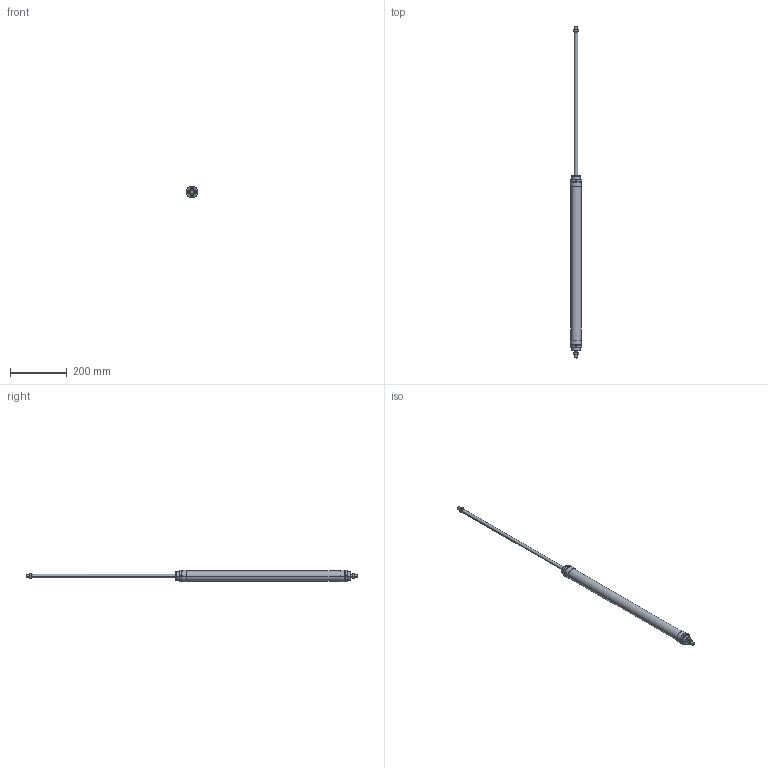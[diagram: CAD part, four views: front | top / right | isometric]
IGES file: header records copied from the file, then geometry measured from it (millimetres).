
Global section: file name: No Iges File Name specified; native system: AutoDesk Inventor R6.0; preprocessor: AutoDesk Inventor Iges Exporter R6.0; author: No Author specified; organization: No Organization specified; date: 20030403.072743; units: millimetre
Bounding box: 41.7 x 1165 x 41.7 mm (x, y, z)
Volume: 690085.2 mm3; surface area: 147046.5 mm2
Topology: 6 solids, 6 shells, 182 faces, 424 edges, 264 vertices
Faces by surface type: plane 66, cone 52, bspline 30, cylinder 28, revolution 6
